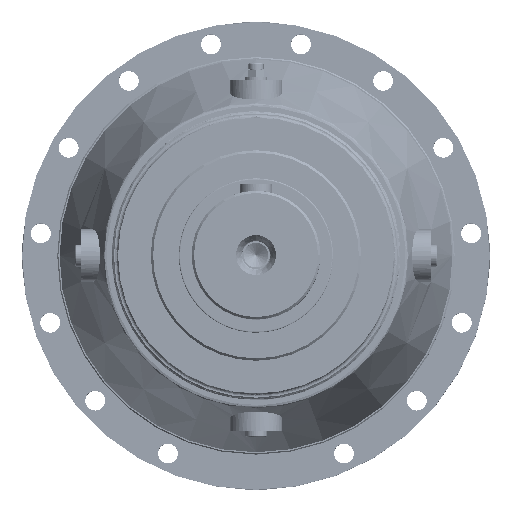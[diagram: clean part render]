
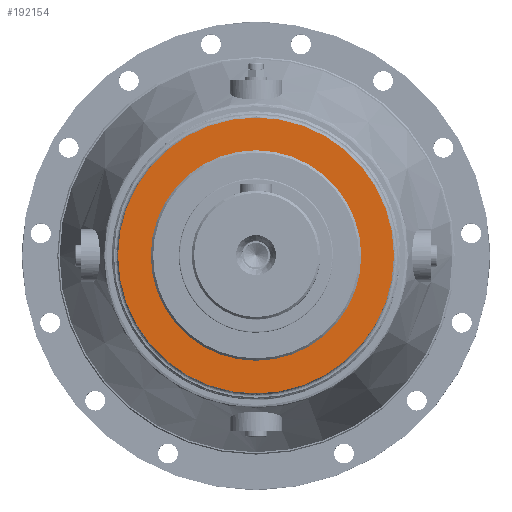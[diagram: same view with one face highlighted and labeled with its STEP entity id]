
A CAD part, top view. The second image highlights one B-rep face of the part: STEP entity #192154.
In plain terms, the highlighted planar face has unit normal (0, 0, 1).
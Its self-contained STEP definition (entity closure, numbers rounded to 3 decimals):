
#68351 = AXIS2_PLACEMENT_3D ( 'NONE', #202188, #202310, #202251 ) ;
#68363 = AXIS2_PLACEMENT_3D ( 'NONE', #195462, #195570, #195429 ) ;
#68383 = AXIS2_PLACEMENT_3D ( 'NONE', #201525, #201539, #201529 ) ;
#68449 = AXIS2_PLACEMENT_3D ( 'NONE', #203658, #203547, #203720 ) ;
#101585 = CIRCLE ( 'NONE', #68449, 118. ) ;
#103952 = FACE_OUTER_BOUND ( 'NONE', #281901, .T. ) ;
#103968 = FACE_BOUND ( 'NONE', #281866, .T. ) ;
#148500 = CIRCLE ( 'NONE', #68363, 118. ) ;
#148681 = CIRCLE ( 'NONE', #68383, 90. ) ;
#148717 = AXIS2_PLACEMENT_3D ( 'NONE', #164223, #164133, #164211 ) ;
#148792 = CIRCLE ( 'NONE', #68351, 90. ) ;
#164133 = DIRECTION ( 'NONE',  ( 0., 0., -1. ) ) ;
#164187 = PLANE ( 'NONE',  #148717 ) ;
#164211 = DIRECTION ( 'NONE',  ( 0., 1., 0. ) ) ;
#164223 = CARTESIAN_POINT ( 'NONE',  ( 0., 118., 175. ) ) ;
#167828 = CARTESIAN_POINT ( 'NONE',  ( 0., -90., 175. ) ) ;
#167991 = CARTESIAN_POINT ( 'NONE',  ( 0., 118., 175. ) ) ;
#168024 = CARTESIAN_POINT ( 'NONE',  ( 0., 90., 175. ) ) ;
#168078 = CARTESIAN_POINT ( 'NONE',  ( 0., -118., 175. ) ) ;
#181199 = EDGE_CURVE ( 'NONE', #267653, #267747, #148500, .T. ) ;
#181408 = EDGE_CURVE ( 'NONE', #267605, #267661, #148681, .T. ) ;
#181661 = EDGE_CURVE ( 'NONE', #267661, #267605, #148792, .T. ) ;
#181916 = EDGE_CURVE ( 'NONE', #267747, #267653, #101585, .T. ) ;
#192154 = ADVANCED_FACE ( 'NONE', ( #103968, #103952 ), #164187, .F. ) ;
#195429 = DIRECTION ( 'NONE',  ( 0., 1., 0. ) ) ;
#195462 = CARTESIAN_POINT ( 'NONE',  ( 0., 0., 175. ) ) ;
#195570 = DIRECTION ( 'NONE',  ( 0., 0., -1. ) ) ;
#201525 = CARTESIAN_POINT ( 'NONE',  ( 0., 0., 175. ) ) ;
#201529 = DIRECTION ( 'NONE',  ( 0., 1., 0. ) ) ;
#201539 = DIRECTION ( 'NONE',  ( 0., 0., 1. ) ) ;
#202188 = CARTESIAN_POINT ( 'NONE',  ( 0., 0., 175. ) ) ;
#202251 = DIRECTION ( 'NONE',  ( 0., 1., 0. ) ) ;
#202310 = DIRECTION ( 'NONE',  ( 0., 0., 1. ) ) ;
#203547 = DIRECTION ( 'NONE',  ( 0., 0., -1. ) ) ;
#203658 = CARTESIAN_POINT ( 'NONE',  ( 0., 0., 175. ) ) ;
#203720 = DIRECTION ( 'NONE',  ( 0., 1., 0. ) ) ;
#267605 = VERTEX_POINT ( 'NONE', #167828 ) ;
#267653 = VERTEX_POINT ( 'NONE', #167991 ) ;
#267661 = VERTEX_POINT ( 'NONE', #168024 ) ;
#267747 = VERTEX_POINT ( 'NONE', #168078 ) ;
#281866 = EDGE_LOOP ( 'NONE', ( #284065, #284075 ) ) ;
#281901 = EDGE_LOOP ( 'NONE', ( #283969, #284110 ) ) ;
#283969 = ORIENTED_EDGE ( 'NONE', *, *, #181916, .F. ) ;
#284065 = ORIENTED_EDGE ( 'NONE', *, *, #181661, .F. ) ;
#284075 = ORIENTED_EDGE ( 'NONE', *, *, #181408, .F. ) ;
#284110 = ORIENTED_EDGE ( 'NONE', *, *, #181199, .F. ) ;
